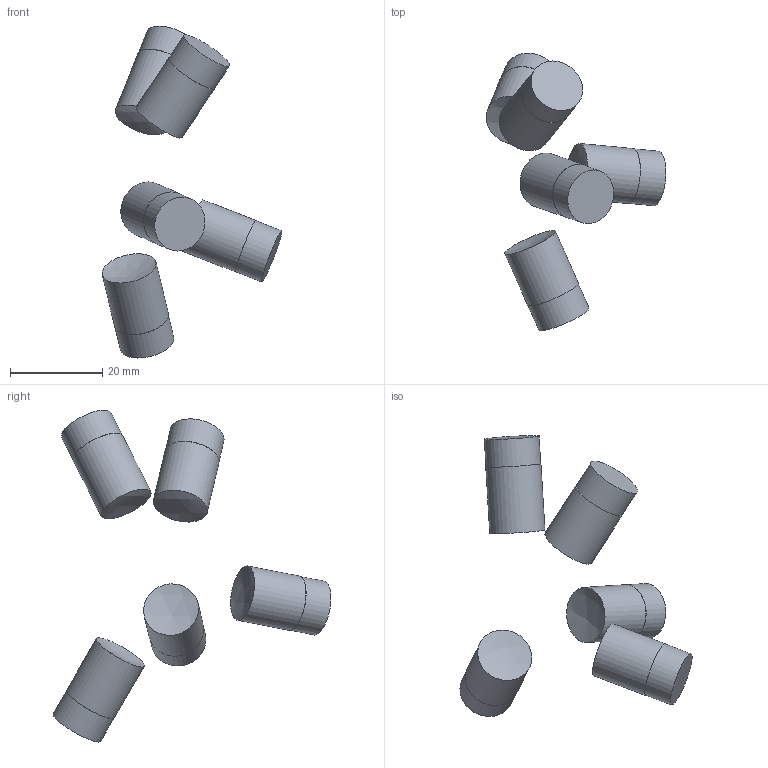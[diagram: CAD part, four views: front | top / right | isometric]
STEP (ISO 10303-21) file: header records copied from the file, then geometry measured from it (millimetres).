
FILE_DESCRIPTION(('Open CASCADE Model'),'2;1');
FILE_NAME('Open CASCADE Shape Model','2026-10-21T12:47:57',('Author'),( 'Open CASCADE'),'Open CASCADE STEP processor 7.9','Open CASCADE 7.9' ,'Unknown');
FILE_SCHEMA(('AUTOMOTIVE_DESIGN { 1 0 10303 214 1 1 1 1 }'));
Length unit declared in the file: millimetre
Products named in the file (1): Open CASCADE STEP translator 7.9 55
Bounding box: 39.05 x 60.29 x 72.06 mm (x, y, z)
Volume: 10480.4 mm3; surface area: 4734.6 mm2
Topology: 4 solids, 4 shells, 24 faces, 35 edges, 24 vertices
Faces by surface type: cylinder 10, plane 10, sphere 4
Full cylindrical faces by diameter (mm): 11.9 x5, 12 x5
Entity records: 1371 total; most frequent: CARTESIAN_POINT 527, DIRECTION 173, ORIENTED_EDGE 74, PCURVE 74, DEFINITIONAL_REPRESENTATION 74, LINE 60, VECTOR 60, AXIS2_PLACEMENT_3D 49
